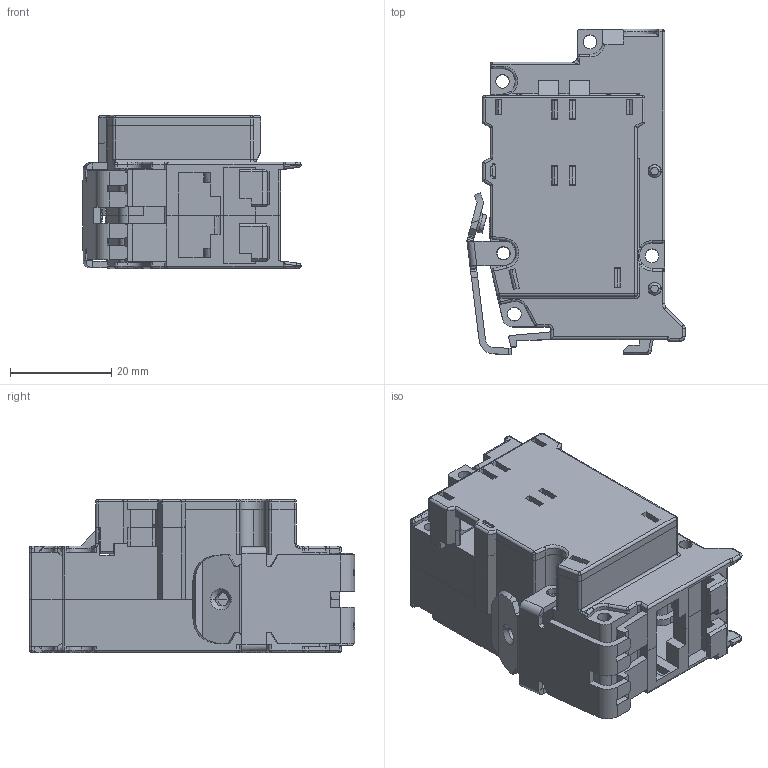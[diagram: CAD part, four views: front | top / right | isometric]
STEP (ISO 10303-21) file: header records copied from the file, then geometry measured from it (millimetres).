
FILE_DESCRIPTION (( 'STEP AP203' ), '1' );
FILE_NAME ('K2-L.STEP', '2012-09-03T07:01:26', ( 'schulung' ), ( 'Microsoft' ), 'SwSTEP 2.0', 'SolidWorks 2012', '' );
FILE_SCHEMA (( 'CONFIG_CONTROL_DESIGN' ));
Length unit declared in the file: millimetre
Products named in the file (5): 48482; 48481; K2-L; 48391; 48483
Assembly tree (4 placements, depth 2):
  K2-L
    48481
    48482
    48483
    48391
Bounding box: 42.99 x 64.2 x 30.2 mm (x, y, z)
Volume: 16210.2 mm3; surface area: 26944.5 mm2
Topology: 4 solids, 4 shells, 1424 faces, 3921 edges, 2489 vertices
Faces by surface type: plane 970, cylinder 297, bspline 110, cone 47
Entity records: 49244 total; most frequent: CARTESIAN_POINT 12977, ORIENTED_EDGE 7810, DIRECTION 6965, EDGE_CURVE 3905, VECTOR 3061, LINE 3061, VERTEX_POINT 2489, AXIS2_PLACEMENT_3D 1952
